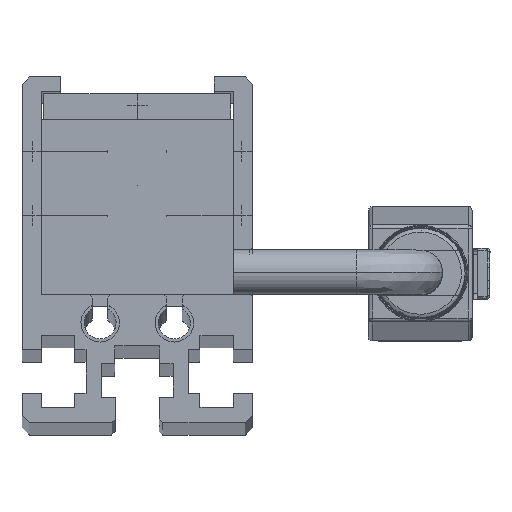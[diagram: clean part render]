
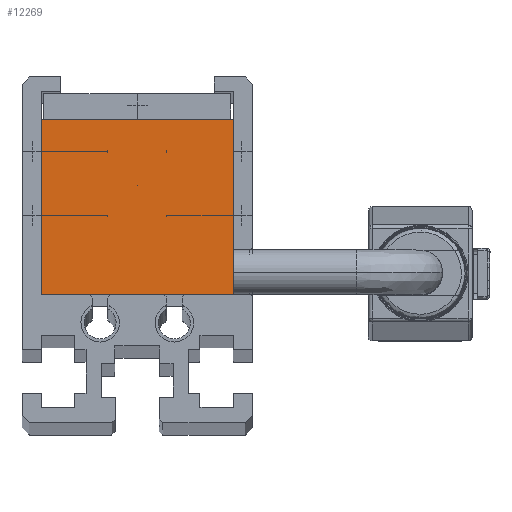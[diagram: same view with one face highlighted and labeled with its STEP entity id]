
A CAD part, top view. The second image highlights one B-rep face of the part: STEP entity #12269.
In plain terms, the highlighted planar face has unit normal (0, 0, 1).
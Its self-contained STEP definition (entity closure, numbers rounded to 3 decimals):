
#845 = CARTESIAN_POINT ( 'NONE',  ( -7.5, 13.7, 276. ) ) ;
#1006 = CARTESIAN_POINT ( 'NONE',  ( 7.5, 13.7, 276. ) ) ;
#1021 = CARTESIAN_POINT ( 'NONE',  ( -7.5, 0., 276. ) ) ;
#1782 = CARTESIAN_POINT ( 'NONE',  ( 7.5, 13.7, 276. ) ) ;
#2523 = VERTEX_POINT ( 'NONE', #17157 ) ;
#2679 = CARTESIAN_POINT ( 'NONE',  ( 7.5, 13.7, 276. ) ) ;
#3265 = CARTESIAN_POINT ( 'NONE',  ( 7.5, 13.7, 276. ) ) ;
#3825 = VERTEX_POINT ( 'NONE', #1006 ) ;
#4706 = DIRECTION ( 'NONE',  ( 0., -1., 0. ) ) ;
#5571 = ORIENTED_EDGE ( 'NONE', *, *, #6463, .T. ) ;
#5891 = AXIS2_PLACEMENT_3D ( 'NONE', #2679, #16076, #6609 ) ;
#6190 = EDGE_CURVE ( 'NONE', #15060, #10175, #6829, .T. ) ;
#6463 = EDGE_CURVE ( 'NONE', #3825, #15060, #7228, .T. ) ;
#6609 = DIRECTION ( 'NONE',  ( -1., 0., 0. ) ) ;
#6829 = LINE ( 'NONE', #7812, #16857 ) ;
#7224 = DIRECTION ( 'NONE',  ( -1., 0., 0. ) ) ;
#7228 = LINE ( 'NONE', #3265, #8272 ) ;
#7704 = DIRECTION ( 'NONE',  ( 0., -1., 0. ) ) ;
#7812 = CARTESIAN_POINT ( 'NONE',  ( -7.5, 13.7, 276. ) ) ;
#8272 = VECTOR ( 'NONE', #7224, 1000. ) ;
#8615 = EDGE_CURVE ( 'NONE', #2523, #10175, #11164, .T. ) ;
#8739 = VECTOR ( 'NONE', #4706, 1000. ) ;
#8753 = ORIENTED_EDGE ( 'NONE', *, *, #6190, .T. ) ;
#9450 = ORIENTED_EDGE ( 'NONE', *, *, #8615, .F. ) ;
#9982 = EDGE_CURVE ( 'NONE', #3825, #2523, #14788, .T. ) ;
#10175 = VERTEX_POINT ( 'NONE', #1021 ) ;
#10770 = PLANE ( 'NONE',  #5891 ) ;
#10960 = VECTOR ( 'NONE', #11854, 1000. ) ;
#10978 = ORIENTED_EDGE ( 'NONE', *, *, #9982, .F. ) ;
#11164 = LINE ( 'NONE', #16812, #10960 ) ;
#11854 = DIRECTION ( 'NONE',  ( -1., 0., 0. ) ) ;
#12269 = ADVANCED_FACE ( 'NONE', ( #15752 ), #10770, .F. ) ;
#14788 = LINE ( 'NONE', #1782, #8739 ) ;
#15060 = VERTEX_POINT ( 'NONE', #845 ) ;
#15752 = FACE_OUTER_BOUND ( 'NONE', #17088, .T. ) ;
#16076 = DIRECTION ( 'NONE',  ( 0., 0., -1. ) ) ;
#16812 = CARTESIAN_POINT ( 'NONE',  ( 7.5, 0., 276. ) ) ;
#16857 = VECTOR ( 'NONE', #7704, 1000. ) ;
#17088 = EDGE_LOOP ( 'NONE', ( #8753, #9450, #10978, #5571 ) ) ;
#17157 = CARTESIAN_POINT ( 'NONE',  ( 7.5, 0., 276. ) ) ;
